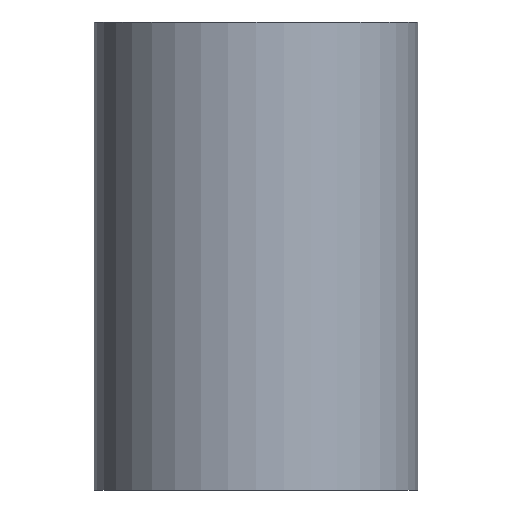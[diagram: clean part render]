
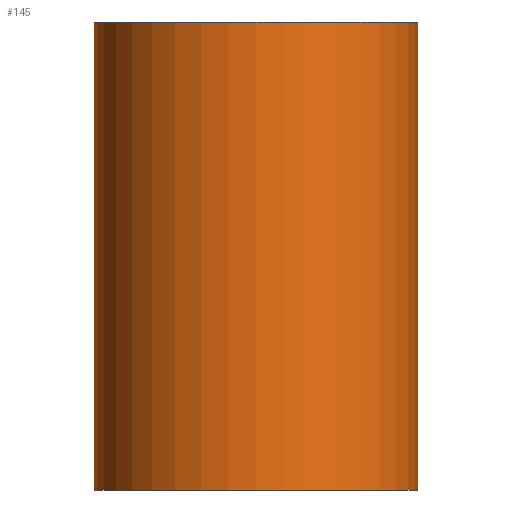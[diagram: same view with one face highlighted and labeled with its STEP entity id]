
A CAD part, front view. The second image highlights one B-rep face of the part: STEP entity #145.
In plain terms, the highlighted cylindrical face has radius 23.5 mm (diameter 47 mm), a full revolution.
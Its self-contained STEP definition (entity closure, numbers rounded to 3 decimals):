
#32=LINE('',#318,#36);
#36=VECTOR('',#269,23.5);
#40=CYLINDRICAL_SURFACE('',#229,23.5);
#49=FACE_OUTER_BOUND('',#58,.T.);
#58=EDGE_LOOP('',(#114,#115,#116,#117,#118,#119));
#67=CIRCLE('',#224,23.5);
#68=CIRCLE('',#225,23.5);
#71=CIRCLE('',#230,23.5);
#72=CIRCLE('',#231,23.5);
#79=VERTEX_POINT('',#303);
#80=VERTEX_POINT('',#304);
#83=VERTEX_POINT('',#314);
#84=VERTEX_POINT('',#315);
#91=EDGE_CURVE('',#79,#80,#67,.T.);
#92=EDGE_CURVE('',#80,#79,#68,.T.);
#96=EDGE_CURVE('',#83,#84,#71,.T.);
#97=EDGE_CURVE('',#84,#83,#72,.T.);
#98=EDGE_CURVE('',#84,#80,#32,.T.);
#114=ORIENTED_EDGE('',*,*,#96,.F.);
#115=ORIENTED_EDGE('',*,*,#97,.F.);
#116=ORIENTED_EDGE('',*,*,#98,.T.);
#117=ORIENTED_EDGE('',*,*,#91,.F.);
#118=ORIENTED_EDGE('',*,*,#92,.F.);
#119=ORIENTED_EDGE('',*,*,#98,.F.);
#145=ADVANCED_FACE('',(#49),#40,.T.);
#224=AXIS2_PLACEMENT_3D('',#305,#252,#253);
#225=AXIS2_PLACEMENT_3D('',#306,#254,#255);
#229=AXIS2_PLACEMENT_3D('',#313,#263,#264);
#230=AXIS2_PLACEMENT_3D('',#316,#265,#266);
#231=AXIS2_PLACEMENT_3D('',#317,#267,#268);
#252=DIRECTION('center_axis',(0.,0.,-1.));
#253=DIRECTION('ref_axis',(1.,0.,0.));
#254=DIRECTION('center_axis',(0.,0.,-1.));
#255=DIRECTION('ref_axis',(1.,0.,0.));
#263=DIRECTION('center_axis',(0.,0.,1.));
#264=DIRECTION('ref_axis',(1.,0.,0.));
#265=DIRECTION('center_axis',(0.,0.,1.));
#266=DIRECTION('ref_axis',(1.,0.,0.));
#267=DIRECTION('center_axis',(0.,0.,1.));
#268=DIRECTION('ref_axis',(1.,0.,0.));
#269=DIRECTION('',(0.,0.,-1.));
#303=CARTESIAN_POINT('',(23.5,0.,-34.));
#304=CARTESIAN_POINT('',(-23.5,0.,-34.));
#305=CARTESIAN_POINT('Origin',(0.,0.,-34.));
#306=CARTESIAN_POINT('Origin',(0.,0.,-34.));
#313=CARTESIAN_POINT('Origin',(0.,0.,0.));
#314=CARTESIAN_POINT('',(23.5,0.,34.));
#315=CARTESIAN_POINT('',(-23.5,0.,34.));
#316=CARTESIAN_POINT('Origin',(0.,0.,34.));
#317=CARTESIAN_POINT('Origin',(0.,0.,34.));
#318=CARTESIAN_POINT('',(-23.5,0.,0.));
